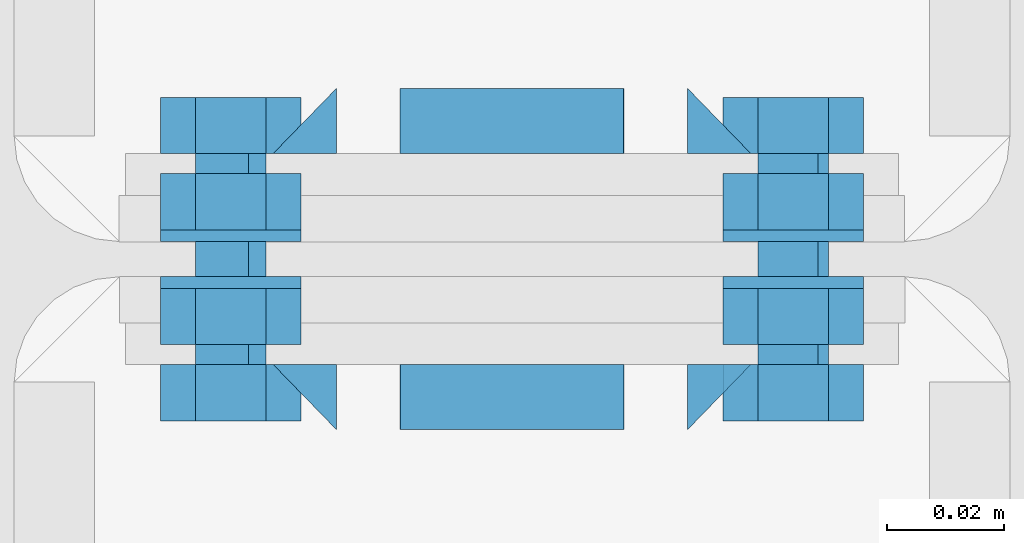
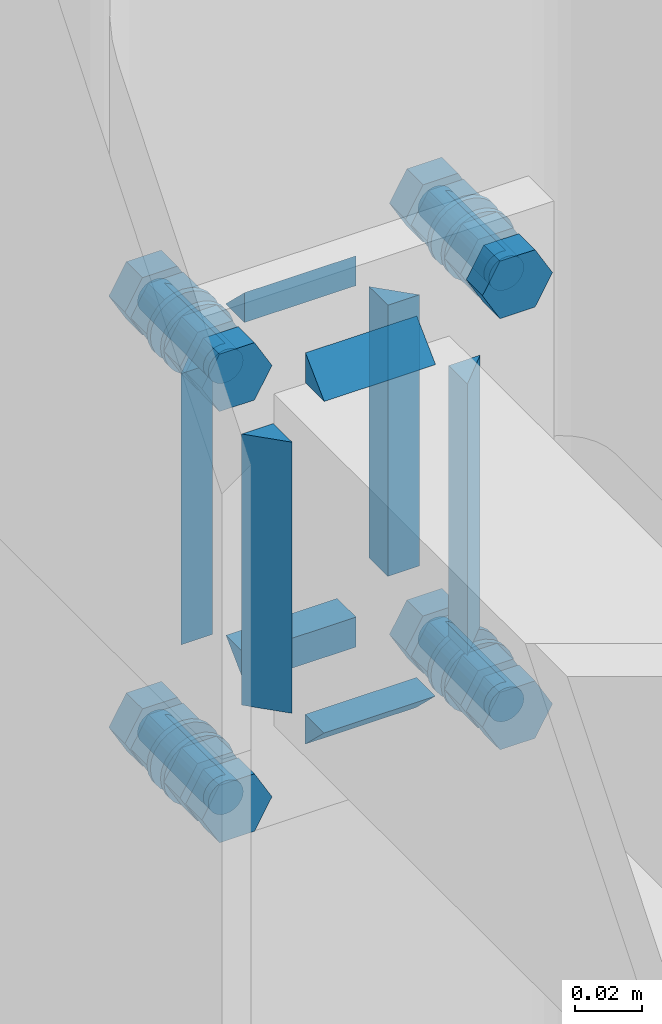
# One storey, part 164 of 251: 32 mechanical fasteners, 14 fasteners.
"""IFC4 building model written with IfcOpenShell, lengths in metres."""

from ifc_helpers import new_model, si_unit, frame, origin_with_axes, place, context, project, spatial, polyline, outline, extrude, type_object, element, save


model = new_model("IFC4")

# Units and contexts
model_context = context("Model", 3, precision=1e-05, world=origin_with_axes())
ifc_project = project(units=[si_unit("LENGTHUNIT", "METRE"), si_unit("AREAUNIT", "SQUARE_METRE"), si_unit("VOLUMEUNIT", "CUBIC_METRE"), si_unit("MASSUNIT", "GRAM", prefix="KILO"), si_unit("TIMEUNIT", "SECOND"), si_unit("PLANEANGLEUNIT", "RADIAN"), si_unit("SOLIDANGLEUNIT", "STERADIAN"), si_unit("THERMODYNAMICTEMPERATUREUNIT", "DEGREE_CELSIUS")], contexts=[model_context])

# Site, building, storey
placement_1 = place(None, origin_with_axes())
site = spatial("IfcSite", under=ifc_project, at=placement_1, Name="Italia", CompositionType="ELEMENT")
building = spatial("IfcBuilding", under=site, at=placement_1, Name="Deposito", CompositionType="ELEMENT")
storey = spatial("IfcBuildingStorey", under=building, at=placement_1, Name="Storey 0", CompositionType="ELEMENT", Elevation=0.0)

# Fasteners
fastener_type_1 = type_object("IfcFastenerType", Name="Collegamenti -001_-002 -002_-001 -002_-003 -003_-002 -003_-004 -004_-003 -004_-008 -008_-004 -009_-010 -010_-009 -010_-011 -011_-010 -011_-012 -012_-011 -012_-016 -016_-012", PredefinedType="WELD")
placement_2 = place(placement_1, origin_with_axes())
fastener_1_placement = place(placement_2, origin_with_axes())
element("IfcFastener", 1, at=fastener_1_placement, inside=storey, type_object=fastener_type_1, Name="Collegamenti -001_-002 -002_-001 -002_-003 -003_-002 -003_-004 -004_-003 -004_-008 -008_-004 -009_-010 -010_-009 -010_-011 -011_-010 -011_-012 -012_-011 -012_-016 -016_-012", context=model_context, shape_type="SweptSolid", body=[
    extrude(outline(polyline([(0.0, 0.0), (-0.0111732, 0.0108376), (0.0, 0.0108376), (0.0, 0.0)])), frame((19.9592, 9.98205, 3.04905), z_axis=(0.0, 0.0, -1.0), x_axis=(0.0, 1.0, 0.0)), (0.0, 0.0, 1.0), 0.0980997),
])
fastener_type_2 = type_object("IfcFastenerType", Name="Collegamenti -001_-002 -002_-001 -002_-003 -003_-002 -003_-004 -004_-003 -004_-008 -008_-004 -009_-010 -010_-009 -010_-011 -011_-010 -011_-012 -012_-011 -012_-016 -016_-012", PredefinedType="WELD")
fastener_2_placement = place(placement_2, origin_with_axes())
element("IfcFastener", 2, at=fastener_2_placement, inside=storey, type_object=fastener_type_2, Name="Collegamenti -001_-002 -002_-001 -002_-003 -003_-002 -003_-004 -004_-003 -004_-008 -008_-004 -009_-010 -010_-009 -010_-011 -011_-010 -011_-012 -012_-011 -012_-016 -016_-012", context=model_context, shape_type="SweptSolid", body=[
    extrude(outline(polyline([(0.0, 0.0), (-0.0111732, 0.0108383), (0.0, 0.0108383), (0.0, 0.0)])), frame((19.9809, 9.98205, 2.92921), z_axis=(1.0, 0.0, 0.0), x_axis=(0.0, 1.0, 0.0)), (0.0, 0.0, 1.0), 0.0381012),
])
fastener_type_3 = type_object("IfcFastenerType", Name="Collegamenti -001_-002 -002_-001 -002_-003 -003_-002 -003_-004 -004_-003 -004_-008 -008_-004 -009_-010 -010_-009 -010_-011 -011_-010 -011_-012 -012_-011 -012_-016 -016_-012", PredefinedType="WELD")
fastener_3_placement = place(placement_2, origin_with_axes())
element("IfcFastener", 3, at=fastener_3_placement, inside=storey, type_object=fastener_type_3, Name="Collegamenti -001_-002 -002_-001 -002_-003 -003_-002 -003_-004 -004_-003 -004_-008 -008_-004 -009_-010 -010_-009 -010_-011 -011_-010 -011_-012 -012_-011 -012_-016 -016_-012", context=model_context, shape_type="SweptSolid", body=[
    extrude(outline(polyline([(0.0, 0.0), (0.0111732, -0.0108383), (0.0, -0.0108383), (0.0, 0.0)])), frame((20.0191, 9.98205, 3.07079), z_axis=(-1.0, 0.0, 0.0), x_axis=(0.0, -1.0, 0.0)), (0.0, 0.0, 1.0), 0.0381012),
])
fastener_type_4 = type_object("IfcFastenerType", Name="Collegamenti -001_-002 -002_-001 -002_-003 -003_-002 -003_-004 -004_-003 -004_-008 -008_-004 -009_-010 -010_-009 -010_-011 -011_-010 -011_-012 -012_-011 -012_-016 -016_-012", PredefinedType="WELD")
fastener_4_placement = place(placement_2, origin_with_axes())
element("IfcFastener", 4, at=fastener_4_placement, inside=storey, type_object=fastener_type_4, Name="Collegamenti -001_-002 -002_-001 -002_-003 -003_-002 -003_-004 -004_-003 -004_-008 -008_-004 -009_-010 -010_-009 -010_-011 -011_-010 -011_-012 -012_-011 -012_-016 -016_-012", context=model_context, shape_type="SweptSolid", body=[
    extrude(outline(polyline([(0.0, 0.0), (-0.0111732, 0.0108376), (0.0, 0.0108376), (0.0, 0.0)])), frame((20.0408, 9.98205, 2.95095), z_axis=(0.0, 0.0, 1.0), x_axis=(0.0, 1.0, 0.0)), (0.0, 0.0, 1.0), 0.0980997),
])
fastener_type_5 = type_object("IfcFastenerType", Name="Collegamenti -001_-002 -002_-001 -002_-003 -003_-002 -003_-004 -004_-003 -004_-008 -008_-004 -009_-010 -010_-009 -010_-011 -011_-010 -011_-012 -012_-011 -012_-016 -016_-012", PredefinedType="WELD")
fastener_5_placement = place(placement_2, origin_with_axes())
element("IfcFastener", 5, at=fastener_5_placement, inside=storey, type_object=fastener_type_5, Name="Collegamenti -001_-002 -002_-001 -002_-003 -003_-002 -003_-004 -004_-003 -004_-008 -008_-004 -009_-010 -010_-009 -010_-011 -011_-010 -011_-012 -012_-011 -012_-016 -016_-012", context=model_context, shape_type="SweptSolid", body=[
    extrude(outline(polyline([(0.0, 0.0), (-0.0111732, 0.0108376), (0.0, 0.0108376), (0.0, 0.0)])), frame((19.9592, 9.98205, 3.04905), z_axis=(0.0, 0.0, -1.0), x_axis=(0.0, 1.0, 0.0)), (0.0, 0.0, 1.0), 0.0980997),
])
fastener_type_6 = type_object("IfcFastenerType", Name="Collegamenti -001_-002 -002_-001 -002_-003 -003_-002 -003_-004 -004_-003 -004_-008 -008_-004 -009_-010 -010_-009 -010_-011 -011_-010 -011_-012 -012_-011 -012_-016 -016_-012", PredefinedType="WELD")
fastener_6_placement = place(placement_2, origin_with_axes())
element("IfcFastener", 6, at=fastener_6_placement, inside=storey, type_object=fastener_type_6, Name="Collegamenti -001_-002 -002_-001 -002_-003 -003_-002 -003_-004 -004_-003 -004_-008 -008_-004 -009_-010 -010_-009 -010_-011 -011_-010 -011_-012 -012_-011 -012_-016 -016_-012", context=model_context, shape_type="SweptSolid", body=[
    extrude(outline(polyline([(0.0, 0.0), (-0.0111732, 0.0108383), (0.0, 0.0108383), (0.0, 0.0)])), frame((19.9809, 9.98205, 2.92921), z_axis=(1.0, 0.0, 0.0), x_axis=(0.0, 1.0, 0.0)), (0.0, 0.0, 1.0), 0.0381012),
])

# Mechanical fasteners
mechanical_fastener_type_1 = type_object("IfcMechanicalFastenerType", Name="Collegamenti -001_-002 -002_-001 -002_-003 -003_-002 -003_-004 -004_-003 -004_-008 -008_-004 -009_-010 -010_-009 -010_-011 -011_-010 -011_-012 -012_-011 -012_-016 -016_-012", PredefinedType="BOLT")
mechanical_fastener_1_placement = place(placement_2, origin_with_axes())
element("IfcMechanicalFastener", 7, at=mechanical_fastener_1_placement, inside=storey, type_object=mechanical_fastener_type_1, Name="Collegamenti -001_-002 -002_-001 -002_-003 -003_-002 -003_-004 -004_-003 -004_-008 -008_-004 -009_-010 -010_-009 -010_-011 -011_-010 -011_-012 -012_-011 -012_-016 -016_-012", NominalDiameter=0.0119992, context=model_context, shape_type="SweptSolid", body=[
    extrude(outline(polyline([(0.0, 0.0), (-0.012001, 0.0), (-0.0179996, 0.0103922), (-0.012001, 0.0207846), (0.0, 0.0207846), (0.00600052, 0.0103922), (0.0, 0.0)])), frame((19.958, 9.982, 2.91161), z_axis=(0.0, -1.0, 0.0), x_axis=(1.0, 0.0, 0.0)), (0.0, 0.0, 1.0), 0.00960064),
])
mechanical_fastener_type_2 = type_object("IfcMechanicalFastenerType", Name="Collegamenti -001_-002 -002_-001 -002_-003 -003_-002 -003_-004 -004_-003 -004_-008 -008_-004 -009_-010 -010_-009 -010_-011 -011_-010 -011_-012 -012_-011 -012_-016 -016_-012", PredefinedType="BOLT")
mechanical_fastener_2_placement = place(placement_2, origin_with_axes())
element("IfcMechanicalFastener", 8, at=mechanical_fastener_2_placement, inside=storey, type_object=mechanical_fastener_type_2, Name="Collegamenti -001_-002 -002_-001 -002_-003 -003_-002 -003_-004 -004_-003 -004_-008 -008_-004 -009_-010 -010_-009 -010_-011 -011_-010 -011_-012 -012_-011 -012_-016 -016_-012", NominalDiameter=0.012, context=model_context, shape_type="SweptSolid", body=[
    extrude(outline(polyline([(0.0, 0.0), (-0.000204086, -0.00155282), (-0.000804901, -0.00300002), (-0.00175858, -0.00424266), (-0.00300026, -0.00519609), (-0.00444794, -0.00579548), (-0.00600052, -0.00600004), (-0.0075531, -0.00579548), (-0.00900078, -0.00519609), (-0.0102425, -0.00424266), (-0.0111961, -0.00300002), (-0.011797, -0.00155282), (-0.012001, 0.0), (-0.011797, 0.00155282), (-0.0111961, 0.00300002), (-0.0102425, 0.00424266), (-0.00900078, 0.00519609), (-0.0075531, 0.00579548), (-0.00600052, 0.00600004), (-0.00444794, 0.00579548), (-0.00300026, 0.00519609), (-0.00175858, 0.00424266), (-0.000804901, 0.00300002), (-0.000204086, 0.00155282), (0.0, 0.0)])), frame((19.958, 10.021, 2.922), z_axis=(0.0, -1.0, 0.0), x_axis=(1.0, 0.0, 0.0)), (0.0, 0.0, 1.0), 0.0389996),
])
mechanical_fastener_type_3 = type_object("IfcMechanicalFastenerType", Name="Collegamenti -001_-002 -002_-001 -002_-003 -003_-002 -003_-004 -004_-003 -004_-008 -008_-004 -009_-010 -010_-009 -010_-011 -011_-010 -011_-012 -012_-011 -012_-016 -016_-012", PredefinedType="BOLT")
mechanical_fastener_3_placement = place(placement_2, origin_with_axes())
element("IfcMechanicalFastener", 9, at=mechanical_fastener_3_placement, inside=storey, type_object=mechanical_fastener_type_3, Name="Collegamenti -001_-002 -002_-001 -002_-003 -003_-002 -003_-004 -004_-003 -004_-008 -008_-004 -009_-010 -010_-009 -010_-011 -011_-010 -011_-012 -012_-011 -012_-016 -016_-012", NominalDiameter=0.0119992, context=model_context, shape_type="SweptSolid", body=[
    extrude(outline(polyline([(0.0, 0.0), (-0.012001, 0.0), (-0.0179996, 0.0103922), (-0.012001, 0.0207846), (0.0, 0.0207846), (0.00600052, 0.0103922), (0.0, 0.0)])), frame((19.958, 10.0146, 2.91161), z_axis=(0.0, -1.0, 0.0), x_axis=(1.0, 0.0, 0.0)), (0.0, 0.0, 1.0), 0.00959969),
])
mechanical_fastener_type_4 = type_object("IfcMechanicalFastenerType", Name="Collegamenti -001_-002 -002_-001 -002_-003 -003_-002 -003_-004 -004_-003 -004_-008 -008_-004 -009_-010 -010_-009 -010_-011 -011_-010 -011_-012 -012_-011 -012_-016 -016_-012", PredefinedType="BOLT")
mechanical_fastener_4_placement = place(placement_2, origin_with_axes())
element("IfcMechanicalFastener", 10, at=mechanical_fastener_4_placement, inside=storey, type_object=mechanical_fastener_type_4, Name="Collegamenti -001_-002 -002_-001 -002_-003 -003_-002 -003_-004 -004_-003 -004_-008 -008_-004 -009_-010 -010_-009 -010_-011 -011_-010 -011_-012 -012_-011 -012_-016 -016_-012", NominalDiameter=0.024, context=model_context, shape_type="SweptSolid", body=[
    extrude(outline(polyline([(0.0, 0.0), (-0.000408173, -0.00310588), (-0.00160599, -0.00600004), (-0.00351334, -0.00848532), (-0.00599861, -0.0103922), (-0.00889397, -0.0115912), (-0.0119991, -0.0120001), (-0.0151043, -0.0115912), (-0.0179996, -0.0103922), (-0.0204849, -0.00848532), (-0.0223923, -0.00600004), (-0.0235901, -0.00310588), (-0.0239983, 0.0), (-0.0235901, 0.00310588), (-0.0223923, 0.00600004), (-0.0204849, 0.00848532), (-0.0179996, 0.0103922), (-0.0151043, 0.0115912), (-0.0119991, 0.0120001), (-0.00889397, 0.0115912), (-0.00599861, 0.0103922), (-0.00351334, 0.00848532), (-0.00160599, 0.00600004), (-0.000408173, 0.00310588), (0.0, 0.0)])), frame((19.964, 10.005, 2.922), z_axis=(0.0, -1.0, 0.0), x_axis=(1.0, 0.0, 0.0)), (0.0, 0.0, 1.0), 0.00199986),
])
mechanical_fastener_type_5 = type_object("IfcMechanicalFastenerType", Name="Collegamenti -001_-002 -002_-001 -002_-003 -003_-002 -003_-004 -004_-003 -004_-008 -008_-004 -009_-010 -010_-009 -010_-011 -011_-010 -011_-012 -012_-011 -012_-016 -016_-012", PredefinedType="BOLT")
mechanical_fastener_5_placement = place(placement_2, origin_with_axes())
element("IfcMechanicalFastener", 11, at=mechanical_fastener_5_placement, inside=storey, type_object=mechanical_fastener_type_5, Name="Collegamenti -001_-002 -002_-001 -002_-003 -003_-002 -003_-004 -004_-003 -004_-008 -008_-004 -009_-010 -010_-009 -010_-011 -011_-010 -011_-012 -012_-011 -012_-016 -016_-012", NominalDiameter=0.0119992, context=model_context, shape_type="SweptSolid", body=[
    extrude(outline(polyline([(0.0, 0.0), (-0.012001, 0.0), (-0.0180016, 0.0103922), (-0.012001, 0.0207846), (0.0, 0.0207846), (0.00599861, 0.0103922), (0.0, 0.0)])), frame((20.054, 9.982, 2.91161), z_axis=(0.0, -1.0, 0.0), x_axis=(1.0, 0.0, 0.0)), (0.0, 0.0, 1.0), 0.00960064),
])
mechanical_fastener_type_6 = type_object("IfcMechanicalFastenerType", Name="Collegamenti -001_-002 -002_-001 -002_-003 -003_-002 -003_-004 -004_-003 -004_-008 -008_-004 -009_-010 -010_-009 -010_-011 -011_-010 -011_-012 -012_-011 -012_-016 -016_-012", PredefinedType="BOLT")
mechanical_fastener_6_placement = place(placement_2, origin_with_axes())
element("IfcMechanicalFastener", 12, at=mechanical_fastener_6_placement, inside=storey, type_object=mechanical_fastener_type_6, Name="Collegamenti -001_-002 -002_-001 -002_-003 -003_-002 -003_-004 -004_-003 -004_-008 -008_-004 -009_-010 -010_-009 -010_-011 -011_-010 -011_-012 -012_-011 -012_-016 -016_-012", NominalDiameter=0.012, context=model_context, shape_type="SweptSolid", body=[
    extrude(outline(polyline([(0.0, 0.0), (-0.000204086, -0.00155282), (-0.000804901, -0.00300002), (-0.00175858, -0.00424266), (-0.00300026, -0.00519609), (-0.00444794, -0.00579548), (-0.00600052, -0.00600004), (-0.0075531, -0.00579548), (-0.00900078, -0.00519609), (-0.0102425, -0.00424266), (-0.0111961, -0.00300002), (-0.011797, -0.00155282), (-0.012001, 0.0), (-0.011797, 0.00155282), (-0.0111961, 0.00300002), (-0.0102425, 0.00424266), (-0.00900078, 0.00519609), (-0.0075531, 0.00579548), (-0.00600052, 0.00600004), (-0.00444794, 0.00579548), (-0.00300026, 0.00519609), (-0.00175858, 0.00424266), (-0.000804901, 0.00300002), (-0.000204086, 0.00155282), (0.0, 0.0)])), frame((20.054, 10.021, 2.922), z_axis=(0.0, -1.0, 0.0), x_axis=(1.0, 0.0, 0.0)), (0.0, 0.0, 1.0), 0.0389996),
])
mechanical_fastener_type_7 = type_object("IfcMechanicalFastenerType", Name="Collegamenti -001_-002 -002_-001 -002_-003 -003_-002 -003_-004 -004_-003 -004_-008 -008_-004 -009_-010 -010_-009 -010_-011 -011_-010 -011_-012 -012_-011 -012_-016 -016_-012", PredefinedType="BOLT")
mechanical_fastener_7_placement = place(placement_2, origin_with_axes())
element("IfcMechanicalFastener", 13, at=mechanical_fastener_7_placement, inside=storey, type_object=mechanical_fastener_type_7, Name="Collegamenti -001_-002 -002_-001 -002_-003 -003_-002 -003_-004 -004_-003 -004_-008 -008_-004 -009_-010 -010_-009 -010_-011 -011_-010 -011_-012 -012_-011 -012_-016 -016_-012", NominalDiameter=0.0119992, context=model_context, shape_type="SweptSolid", body=[
    extrude(outline(polyline([(0.0, 0.0), (-0.012001, 0.0), (-0.0180016, 0.0103922), (-0.012001, 0.0207846), (0.0, 0.0207846), (0.00599861, 0.0103922), (0.0, 0.0)])), frame((20.054, 10.0146, 2.91161), z_axis=(0.0, -1.0, 0.0), x_axis=(1.0, 0.0, 0.0)), (0.0, 0.0, 1.0), 0.00959969),
])
mechanical_fastener_type_8 = type_object("IfcMechanicalFastenerType", Name="Collegamenti -001_-002 -002_-001 -002_-003 -003_-002 -003_-004 -004_-003 -004_-008 -008_-004 -009_-010 -010_-009 -010_-011 -011_-010 -011_-012 -012_-011 -012_-016 -016_-012", PredefinedType="BOLT")
mechanical_fastener_8_placement = place(placement_2, origin_with_axes())
element("IfcMechanicalFastener", 14, at=mechanical_fastener_8_placement, inside=storey, type_object=mechanical_fastener_type_8, Name="Collegamenti -001_-002 -002_-001 -002_-003 -003_-002 -003_-004 -004_-003 -004_-008 -008_-004 -009_-010 -010_-009 -010_-011 -011_-010 -011_-012 -012_-011 -012_-016 -016_-012", NominalDiameter=0.024, context=model_context, shape_type="SweptSolid", body=[
    extrude(outline(polyline([(0.0, 0.0), (-0.000408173, -0.00310588), (-0.00160599, -0.00600004), (-0.00351334, -0.00848532), (-0.00599861, -0.0103922), (-0.00889397, -0.0115912), (-0.0119991, -0.0120001), (-0.0151043, -0.0115912), (-0.0179996, -0.0103922), (-0.0204849, -0.00848532), (-0.0223923, -0.00600004), (-0.0235901, -0.00310588), (-0.0239983, 0.0), (-0.0235901, 0.00310588), (-0.0223923, 0.00600004), (-0.0204849, 0.00848532), (-0.0179996, 0.0103922), (-0.0151043, 0.0115912), (-0.0119991, 0.0120001), (-0.00889397, 0.0115912), (-0.00599861, 0.0103922), (-0.00351334, 0.00848532), (-0.00160599, 0.00600004), (-0.000408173, 0.00310588), (0.0, 0.0)])), frame((20.06, 10.005, 2.922), z_axis=(0.0, -1.0, 0.0), x_axis=(1.0, 0.0, 0.0)), (0.0, 0.0, 1.0), 0.00199986),
])
mechanical_fastener_type_9 = type_object("IfcMechanicalFastenerType", Name="Collegamenti -001_-002 -002_-001 -002_-003 -003_-002 -003_-004 -004_-003 -004_-008 -008_-004 -009_-010 -010_-009 -010_-011 -011_-010 -011_-012 -012_-011 -012_-016 -016_-012", PredefinedType="BOLT")
mechanical_fastener_9_placement = place(placement_2, origin_with_axes())
element("IfcMechanicalFastener", 15, at=mechanical_fastener_9_placement, inside=storey, type_object=mechanical_fastener_type_9, Name="Collegamenti -001_-002 -002_-001 -002_-003 -003_-002 -003_-004 -004_-003 -004_-008 -008_-004 -009_-010 -010_-009 -010_-011 -011_-010 -011_-012 -012_-011 -012_-016 -016_-012", NominalDiameter=0.0119992, context=model_context, shape_type="SweptSolid", body=[
    extrude(outline(polyline([(0.0, 0.0), (-0.012001, 0.0), (-0.0179996, 0.0103924), (-0.012001, 0.0207846), (0.0, 0.0207846), (0.00600052, 0.0103924), (0.0, 0.0)])), frame((19.958, 9.982, 3.06761), z_axis=(0.0, -1.0, 0.0), x_axis=(1.0, 0.0, 0.0)), (0.0, 0.0, 1.0), 0.00960064),
])
mechanical_fastener_type_10 = type_object("IfcMechanicalFastenerType", Name="Collegamenti -001_-002 -002_-001 -002_-003 -003_-002 -003_-004 -004_-003 -004_-008 -008_-004 -009_-010 -010_-009 -010_-011 -011_-010 -011_-012 -012_-011 -012_-016 -016_-012", PredefinedType="BOLT")
mechanical_fastener_10_placement = place(placement_2, origin_with_axes())
element("IfcMechanicalFastener", 16, at=mechanical_fastener_10_placement, inside=storey, type_object=mechanical_fastener_type_10, Name="Collegamenti -001_-002 -002_-001 -002_-003 -003_-002 -003_-004 -004_-003 -004_-008 -008_-004 -009_-010 -010_-009 -010_-011 -011_-010 -011_-012 -012_-011 -012_-016 -016_-012", NominalDiameter=0.012, context=model_context, shape_type="SweptSolid", body=[
    extrude(outline(polyline([(0.0, 0.0), (-0.000204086, -0.00155282), (-0.000804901, -0.00300002), (-0.00175858, -0.00424266), (-0.00300026, -0.00519609), (-0.00444794, -0.00579548), (-0.00600052, -0.00600004), (-0.0075531, -0.00579548), (-0.00900078, -0.00519609), (-0.0102425, -0.00424266), (-0.0111961, -0.00300002), (-0.011797, -0.00155282), (-0.012001, 0.0), (-0.011797, 0.00155282), (-0.0111961, 0.00300002), (-0.0102425, 0.00424266), (-0.00900078, 0.00519609), (-0.0075531, 0.00579548), (-0.00600052, 0.00600004), (-0.00444794, 0.00579548), (-0.00300026, 0.00519609), (-0.00175858, 0.00424266), (-0.000804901, 0.00300002), (-0.000204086, 0.00155282), (0.0, 0.0)])), frame((19.958, 10.021, 3.078), z_axis=(0.0, -1.0, 0.0), x_axis=(1.0, 0.0, 0.0)), (0.0, 0.0, 1.0), 0.0389996),
])
mechanical_fastener_type_11 = type_object("IfcMechanicalFastenerType", Name="Collegamenti -001_-002 -002_-001 -002_-003 -003_-002 -003_-004 -004_-003 -004_-008 -008_-004 -009_-010 -010_-009 -010_-011 -011_-010 -011_-012 -012_-011 -012_-016 -016_-012", PredefinedType="BOLT")
mechanical_fastener_11_placement = place(placement_2, origin_with_axes())
element("IfcMechanicalFastener", 17, at=mechanical_fastener_11_placement, inside=storey, type_object=mechanical_fastener_type_11, Name="Collegamenti -001_-002 -002_-001 -002_-003 -003_-002 -003_-004 -004_-003 -004_-008 -008_-004 -009_-010 -010_-009 -010_-011 -011_-010 -011_-012 -012_-011 -012_-016 -016_-012", NominalDiameter=0.0119992, context=model_context, shape_type="SweptSolid", body=[
    extrude(outline(polyline([(0.0, 0.0), (-0.012001, 0.0), (-0.0179996, 0.0103924), (-0.012001, 0.0207846), (0.0, 0.0207846), (0.00600052, 0.0103924), (0.0, 0.0)])), frame((19.958, 10.0146, 3.06761), z_axis=(0.0, -1.0, 0.0), x_axis=(1.0, 0.0, 0.0)), (0.0, 0.0, 1.0), 0.00959969),
])
mechanical_fastener_type_12 = type_object("IfcMechanicalFastenerType", Name="Collegamenti -001_-002 -002_-001 -002_-003 -003_-002 -003_-004 -004_-003 -004_-008 -008_-004 -009_-010 -010_-009 -010_-011 -011_-010 -011_-012 -012_-011 -012_-016 -016_-012", PredefinedType="BOLT")
mechanical_fastener_12_placement = place(placement_2, origin_with_axes())
element("IfcMechanicalFastener", 18, at=mechanical_fastener_12_placement, inside=storey, type_object=mechanical_fastener_type_12, Name="Collegamenti -001_-002 -002_-001 -002_-003 -003_-002 -003_-004 -004_-003 -004_-008 -008_-004 -009_-010 -010_-009 -010_-011 -011_-010 -011_-012 -012_-011 -012_-016 -016_-012", NominalDiameter=0.024, context=model_context, shape_type="SweptSolid", body=[
    extrude(outline(polyline([(0.0, 0.0), (-0.000408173, -0.00310588), (-0.00160599, -0.00600004), (-0.00351334, -0.00848532), (-0.00599861, -0.0103922), (-0.00889397, -0.0115912), (-0.0119991, -0.0120001), (-0.0151043, -0.0115912), (-0.0179996, -0.0103922), (-0.0204849, -0.00848532), (-0.0223923, -0.00600004), (-0.0235901, -0.00310588), (-0.0239983, 0.0), (-0.0235901, 0.00310588), (-0.0223923, 0.00600004), (-0.0204849, 0.00848532), (-0.0179996, 0.0103922), (-0.0151043, 0.0115912), (-0.0119991, 0.0120001), (-0.00889397, 0.0115912), (-0.00599861, 0.0103922), (-0.00351334, 0.00848532), (-0.00160599, 0.00600004), (-0.000408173, 0.00310588), (0.0, 0.0)])), frame((19.964, 10.005, 3.078), z_axis=(0.0, -1.0, 0.0), x_axis=(1.0, 0.0, 0.0)), (0.0, 0.0, 1.0), 0.00199986),
])
mechanical_fastener_type_13 = type_object("IfcMechanicalFastenerType", Name="Collegamenti -001_-002 -002_-001 -002_-003 -003_-002 -003_-004 -004_-003 -004_-008 -008_-004 -009_-010 -010_-009 -010_-011 -011_-010 -011_-012 -012_-011 -012_-016 -016_-012", PredefinedType="BOLT")
mechanical_fastener_13_placement = place(placement_2, origin_with_axes())
element("IfcMechanicalFastener", 19, at=mechanical_fastener_13_placement, inside=storey, type_object=mechanical_fastener_type_13, Name="Collegamenti -001_-002 -002_-001 -002_-003 -003_-002 -003_-004 -004_-003 -004_-008 -008_-004 -009_-010 -010_-009 -010_-011 -011_-010 -011_-012 -012_-011 -012_-016 -016_-012", NominalDiameter=0.0119992, context=model_context, shape_type="SweptSolid", body=[
    extrude(outline(polyline([(0.0, 0.0), (-0.012001, 0.0), (-0.0180016, 0.0103924), (-0.012001, 0.0207846), (0.0, 0.0207846), (0.00599861, 0.0103924), (0.0, 0.0)])), frame((20.054, 9.982, 3.06761), z_axis=(0.0, -1.0, 0.0), x_axis=(1.0, 0.0, 0.0)), (0.0, 0.0, 1.0), 0.00960064),
])
mechanical_fastener_type_14 = type_object("IfcMechanicalFastenerType", Name="Collegamenti -001_-002 -002_-001 -002_-003 -003_-002 -003_-004 -004_-003 -004_-008 -008_-004 -009_-010 -010_-009 -010_-011 -011_-010 -011_-012 -012_-011 -012_-016 -016_-012", PredefinedType="BOLT")
mechanical_fastener_14_placement = place(placement_2, origin_with_axes())
element("IfcMechanicalFastener", 20, at=mechanical_fastener_14_placement, inside=storey, type_object=mechanical_fastener_type_14, Name="Collegamenti -001_-002 -002_-001 -002_-003 -003_-002 -003_-004 -004_-003 -004_-008 -008_-004 -009_-010 -010_-009 -010_-011 -011_-010 -011_-012 -012_-011 -012_-016 -016_-012", NominalDiameter=0.012, context=model_context, shape_type="SweptSolid", body=[
    extrude(outline(polyline([(0.0, 0.0), (-0.000204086, -0.00155282), (-0.000804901, -0.00300002), (-0.00175858, -0.00424266), (-0.00300026, -0.00519609), (-0.00444794, -0.00579548), (-0.00600052, -0.00600004), (-0.0075531, -0.00579548), (-0.00900078, -0.00519609), (-0.0102425, -0.00424266), (-0.0111961, -0.00300002), (-0.011797, -0.00155282), (-0.012001, 0.0), (-0.011797, 0.00155282), (-0.0111961, 0.00300002), (-0.0102425, 0.00424266), (-0.00900078, 0.00519609), (-0.0075531, 0.00579548), (-0.00600052, 0.00600004), (-0.00444794, 0.00579548), (-0.00300026, 0.00519609), (-0.00175858, 0.00424266), (-0.000804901, 0.00300002), (-0.000204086, 0.00155282), (0.0, 0.0)])), frame((20.054, 10.021, 3.078), z_axis=(0.0, -1.0, 0.0), x_axis=(1.0, 0.0, 0.0)), (0.0, 0.0, 1.0), 0.0389996),
])
mechanical_fastener_type_15 = type_object("IfcMechanicalFastenerType", Name="Collegamenti -001_-002 -002_-001 -002_-003 -003_-002 -003_-004 -004_-003 -004_-008 -008_-004 -009_-010 -010_-009 -010_-011 -011_-010 -011_-012 -012_-011 -012_-016 -016_-012", PredefinedType="BOLT")
mechanical_fastener_15_placement = place(placement_2, origin_with_axes())
element("IfcMechanicalFastener", 21, at=mechanical_fastener_15_placement, inside=storey, type_object=mechanical_fastener_type_15, Name="Collegamenti -001_-002 -002_-001 -002_-003 -003_-002 -003_-004 -004_-003 -004_-008 -008_-004 -009_-010 -010_-009 -010_-011 -011_-010 -011_-012 -012_-011 -012_-016 -016_-012", NominalDiameter=0.0119992, context=model_context, shape_type="SweptSolid", body=[
    extrude(outline(polyline([(0.0, 0.0), (-0.012001, 0.0), (-0.0180016, 0.0103924), (-0.012001, 0.0207846), (0.0, 0.0207846), (0.00599861, 0.0103924), (0.0, 0.0)])), frame((20.054, 10.0146, 3.06761), z_axis=(0.0, -1.0, 0.0), x_axis=(1.0, 0.0, 0.0)), (0.0, 0.0, 1.0), 0.00959969),
])
mechanical_fastener_type_16 = type_object("IfcMechanicalFastenerType", Name="Collegamenti -001_-002 -002_-001 -002_-003 -003_-002 -003_-004 -004_-003 -004_-008 -008_-004 -009_-010 -010_-009 -010_-011 -011_-010 -011_-012 -012_-011 -012_-016 -016_-012", PredefinedType="BOLT")
mechanical_fastener_16_placement = place(placement_2, origin_with_axes())
element("IfcMechanicalFastener", 22, at=mechanical_fastener_16_placement, inside=storey, type_object=mechanical_fastener_type_16, Name="Collegamenti -001_-002 -002_-001 -002_-003 -003_-002 -003_-004 -004_-003 -004_-008 -008_-004 -009_-010 -010_-009 -010_-011 -011_-010 -011_-012 -012_-011 -012_-016 -016_-012", NominalDiameter=0.024, context=model_context, shape_type="SweptSolid", body=[
    extrude(outline(polyline([(0.0, 0.0), (-0.000408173, -0.00310588), (-0.00160599, -0.00600004), (-0.00351334, -0.00848532), (-0.00599861, -0.0103922), (-0.00889397, -0.0115912), (-0.0119991, -0.0120001), (-0.0151043, -0.0115912), (-0.0179996, -0.0103922), (-0.0204849, -0.00848532), (-0.0223923, -0.00600004), (-0.0235901, -0.00310588), (-0.0239983, 0.0), (-0.0235901, 0.00310588), (-0.0223923, 0.00600004), (-0.0204849, 0.00848532), (-0.0179996, 0.0103922), (-0.0151043, 0.0115912), (-0.0119991, 0.0120001), (-0.00889397, 0.0115912), (-0.00599861, 0.0103922), (-0.00351334, 0.00848532), (-0.00160599, 0.00600004), (-0.000408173, 0.00310588), (0.0, 0.0)])), frame((20.06, 10.005, 3.078), z_axis=(0.0, -1.0, 0.0), x_axis=(1.0, 0.0, 0.0)), (0.0, 0.0, 1.0), 0.00199986),
])

# Fasteners
fastener_type_7 = type_object("IfcFastenerType", Name="Collegamenti -001_-002 -002_-001 -002_-003 -003_-002 -003_-004 -004_-003 -004_-008 -008_-004 -009_-010 -010_-009 -010_-011 -011_-010 -011_-012 -012_-011 -012_-016 -016_-012", PredefinedType="WELD")
fastener_7_placement = place(placement_2, origin_with_axes())
element("IfcFastener", 23, at=fastener_7_placement, inside=storey, type_object=fastener_type_7, Name="Collegamenti -001_-002 -002_-001 -002_-003 -003_-002 -003_-004 -004_-003 -004_-008 -008_-004 -009_-010 -010_-009 -010_-011 -011_-010 -011_-012 -012_-011 -012_-016 -016_-012", context=model_context, shape_type="SweptSolid", body=[
    extrude(outline(polyline([(0.0, 0.0), (0.0111732, -0.0108383), (0.0, -0.0108383), (0.0, 0.0)])), frame((19.9809, 10.018, 3.07079), z_axis=(1.0, 0.0, 0.0), x_axis=(0.0, 1.0, 0.0)), (0.0, 0.0, 1.0), 0.0381012),
])
fastener_type_8 = type_object("IfcFastenerType", Name="Collegamenti -001_-002 -002_-001 -002_-003 -003_-002 -003_-004 -004_-003 -004_-008 -008_-004 -009_-010 -010_-009 -010_-011 -011_-010 -011_-012 -012_-011 -012_-016 -016_-012", PredefinedType="WELD")
fastener_8_placement = place(placement_2, origin_with_axes())
element("IfcFastener", 24, at=fastener_8_placement, inside=storey, type_object=fastener_type_8, Name="Collegamenti -001_-002 -002_-001 -002_-003 -003_-002 -003_-004 -004_-003 -004_-008 -008_-004 -009_-010 -010_-009 -010_-011 -011_-010 -011_-012 -012_-011 -012_-016 -016_-012", context=model_context, shape_type="SweptSolid", body=[
    extrude(outline(polyline([(0.0, 0.0), (0.0111732, -0.0108376), (0.0, -0.0108376), (0.0, 0.0)])), frame((19.9592, 10.018, 2.95095), z_axis=(0.0, 0.0, 1.0), x_axis=(0.0, 1.0, 0.0)), (0.0, 0.0, 1.0), 0.0980997),
])
fastener_type_9 = type_object("IfcFastenerType", Name="Collegamenti -001_-002 -002_-001 -002_-003 -003_-002 -003_-004 -004_-003 -004_-008 -008_-004 -009_-010 -010_-009 -010_-011 -011_-010 -011_-012 -012_-011 -012_-016 -016_-012", PredefinedType="WELD")
fastener_9_placement = place(placement_2, origin_with_axes())
element("IfcFastener", 25, at=fastener_9_placement, inside=storey, type_object=fastener_type_9, Name="Collegamenti -001_-002 -002_-001 -002_-003 -003_-002 -003_-004 -004_-003 -004_-008 -008_-004 -009_-010 -010_-009 -010_-011 -011_-010 -011_-012 -012_-011 -012_-016 -016_-012", context=model_context, shape_type="SweptSolid", body=[
    extrude(outline(polyline([(0.0, 0.0), (0.0111732, -0.0108376), (0.0, -0.0108376), (0.0, 0.0)])), frame((20.0408, 10.018, 3.04905), z_axis=(0.0, 0.0, -1.0), x_axis=(0.0, 1.0, 0.0)), (0.0, 0.0, 1.0), 0.0980997),
])
fastener_type_10 = type_object("IfcFastenerType", Name="Collegamenti -001_-002 -002_-001 -002_-003 -003_-002 -003_-004 -004_-003 -004_-008 -008_-004 -009_-010 -010_-009 -010_-011 -011_-010 -011_-012 -012_-011 -012_-016 -016_-012", PredefinedType="WELD")
fastener_10_placement = place(placement_2, origin_with_axes())
element("IfcFastener", 26, at=fastener_10_placement, inside=storey, type_object=fastener_type_10, Name="Collegamenti -001_-002 -002_-001 -002_-003 -003_-002 -003_-004 -004_-003 -004_-008 -008_-004 -009_-010 -010_-009 -010_-011 -011_-010 -011_-012 -012_-011 -012_-016 -016_-012", context=model_context, shape_type="SweptSolid", body=[
    extrude(outline(polyline([(0.0, 0.0), (-0.0111732, 0.0108383), (0.0, 0.0108383), (0.0, 0.0)])), frame((20.0191, 10.018, 2.92921), z_axis=(-1.0, 0.0, 0.0), x_axis=(0.0, -1.0, 0.0)), (0.0, 0.0, 1.0), 0.0381012),
])
fastener_type_11 = type_object("IfcFastenerType", Name="Collegamenti -001_-002 -002_-001 -002_-003 -003_-002 -003_-004 -004_-003 -004_-008 -008_-004 -009_-010 -010_-009 -010_-011 -011_-010 -011_-012 -012_-011 -012_-016 -016_-012", PredefinedType="WELD")
fastener_11_placement = place(placement_2, origin_with_axes())
element("IfcFastener", 27, at=fastener_11_placement, inside=storey, type_object=fastener_type_11, Name="Collegamenti -001_-002 -002_-001 -002_-003 -003_-002 -003_-004 -004_-003 -004_-008 -008_-004 -009_-010 -010_-009 -010_-011 -011_-010 -011_-012 -012_-011 -012_-016 -016_-012", context=model_context, shape_type="SweptSolid", body=[
    extrude(outline(polyline([(0.0, 0.0), (0.0111732, -0.0108383), (0.0, -0.0108383), (0.0, 0.0)])), frame((19.9809, 10.018, 3.07079), z_axis=(1.0, 0.0, 0.0), x_axis=(0.0, 1.0, 0.0)), (0.0, 0.0, 1.0), 0.0381012),
])
fastener_type_12 = type_object("IfcFastenerType", Name="Collegamenti -001_-002 -002_-001 -002_-003 -003_-002 -003_-004 -004_-003 -004_-008 -008_-004 -009_-010 -010_-009 -010_-011 -011_-010 -011_-012 -012_-011 -012_-016 -016_-012", PredefinedType="WELD")
fastener_12_placement = place(placement_2, origin_with_axes())
element("IfcFastener", 28, at=fastener_12_placement, inside=storey, type_object=fastener_type_12, Name="Collegamenti -001_-002 -002_-001 -002_-003 -003_-002 -003_-004 -004_-003 -004_-008 -008_-004 -009_-010 -010_-009 -010_-011 -011_-010 -011_-012 -012_-011 -012_-016 -016_-012", context=model_context, shape_type="SweptSolid", body=[
    extrude(outline(polyline([(0.0, 0.0), (0.0111732, -0.0108376), (0.0, -0.0108376), (0.0, 0.0)])), frame((19.9592, 10.018, 2.95095), z_axis=(0.0, 0.0, 1.0), x_axis=(0.0, 1.0, 0.0)), (0.0, 0.0, 1.0), 0.0980997),
])
fastener_type_13 = type_object("IfcFastenerType", Name="Collegamenti -001_-002 -002_-001 -002_-003 -003_-002 -003_-004 -004_-003 -004_-008 -008_-004 -009_-010 -010_-009 -010_-011 -011_-010 -011_-012 -012_-011 -012_-016 -016_-012", PredefinedType="WELD")
fastener_13_placement = place(placement_2, origin_with_axes())
element("IfcFastener", 29, at=fastener_13_placement, inside=storey, type_object=fastener_type_13, Name="Collegamenti -001_-002 -002_-001 -002_-003 -003_-002 -003_-004 -004_-003 -004_-008 -008_-004 -009_-010 -010_-009 -010_-011 -011_-010 -011_-012 -012_-011 -012_-016 -016_-012", context=model_context, shape_type="SweptSolid", body=[
    extrude(outline(polyline([(0.0, 0.0), (0.0111732, -0.0108376), (0.0, -0.0108376), (0.0, 0.0)])), frame((20.0408, 10.018, 3.04905), z_axis=(0.0, 0.0, -1.0), x_axis=(0.0, 1.0, 0.0)), (0.0, 0.0, 1.0), 0.0980997),
])
fastener_type_14 = type_object("IfcFastenerType", Name="Collegamenti -001_-002 -002_-001 -002_-003 -003_-002 -003_-004 -004_-003 -004_-008 -008_-004 -009_-010 -010_-009 -010_-011 -011_-010 -011_-012 -012_-011 -012_-016 -016_-012", PredefinedType="WELD")
fastener_14_placement = place(placement_2, origin_with_axes())
element("IfcFastener", 30, at=fastener_14_placement, inside=storey, type_object=fastener_type_14, Name="Collegamenti -001_-002 -002_-001 -002_-003 -003_-002 -003_-004 -004_-003 -004_-008 -008_-004 -009_-010 -010_-009 -010_-011 -011_-010 -011_-012 -012_-011 -012_-016 -016_-012", context=model_context, shape_type="SweptSolid", body=[
    extrude(outline(polyline([(0.0, 0.0), (-0.0111732, 0.0108383), (0.0, 0.0108383), (0.0, 0.0)])), frame((20.0191, 10.018, 2.92921), z_axis=(-1.0, 0.0, 0.0), x_axis=(0.0, -1.0, 0.0)), (0.0, 0.0, 1.0), 0.0381012),
])

# Mechanical fasteners
mechanical_fastener_type_17 = type_object("IfcMechanicalFastenerType", Name="Collegamenti -001_-002 -002_-001 -002_-003 -003_-002 -003_-004 -004_-003 -004_-008 -008_-004 -009_-010 -010_-009 -010_-011 -011_-010 -011_-012 -012_-011 -012_-016 -016_-012", PredefinedType="BOLT")
mechanical_fastener_17_placement = place(placement_2, origin_with_axes())
element("IfcMechanicalFastener", 31, at=mechanical_fastener_17_placement, inside=storey, type_object=mechanical_fastener_type_17, Name="Collegamenti -001_-002 -002_-001 -002_-003 -003_-002 -003_-004 -004_-003 -004_-008 -008_-004 -009_-010 -010_-009 -010_-011 -011_-010 -011_-012 -012_-011 -012_-016 -016_-012", NominalDiameter=0.0119992, context=model_context, shape_type="SweptSolid", body=[
    extrude(outline(polyline([(0.0, 0.0), (-0.012001, 0.0), (-0.0179996, 0.0103922), (-0.012001, 0.0207846), (0.0, 0.0207846), (0.00600052, 0.0103922), (0.0, 0.0)])), frame((20.042, 10.018, 2.91161), z_axis=(0.0, 1.0, 0.0), x_axis=(-1.0, 0.0, 0.0)), (0.0, 0.0, 1.0), 0.00960064),
])
mechanical_fastener_type_18 = type_object("IfcMechanicalFastenerType", Name="Collegamenti -001_-002 -002_-001 -002_-003 -003_-002 -003_-004 -004_-003 -004_-008 -008_-004 -009_-010 -010_-009 -010_-011 -011_-010 -011_-012 -012_-011 -012_-016 -016_-012", PredefinedType="BOLT")
mechanical_fastener_18_placement = place(placement_2, origin_with_axes())
element("IfcMechanicalFastener", 32, at=mechanical_fastener_18_placement, inside=storey, type_object=mechanical_fastener_type_18, Name="Collegamenti -001_-002 -002_-001 -002_-003 -003_-002 -003_-004 -004_-003 -004_-008 -008_-004 -009_-010 -010_-009 -010_-011 -011_-010 -011_-012 -012_-011 -012_-016 -016_-012", NominalDiameter=0.012, context=model_context, shape_type="SweptSolid", body=[
    extrude(outline(polyline([(0.0, 0.0), (-0.000204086, -0.00155282), (-0.000804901, -0.00300002), (-0.00175858, -0.00424266), (-0.00300026, -0.00519609), (-0.00444794, -0.00579548), (-0.00600052, -0.00600004), (-0.0075531, -0.00579548), (-0.00900078, -0.00519609), (-0.0102425, -0.00424266), (-0.0111961, -0.00300002), (-0.011797, -0.00155282), (-0.012001, 0.0), (-0.011797, 0.00155282), (-0.0111961, 0.00300002), (-0.0102425, 0.00424266), (-0.00900078, 0.00519609), (-0.0075531, 0.00579548), (-0.00600052, 0.00600004), (-0.00444794, 0.00579548), (-0.00300026, 0.00519609), (-0.00175858, 0.00424266), (-0.000804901, 0.00300002), (-0.000204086, 0.00155282), (0.0, 0.0)])), frame((20.042, 9.979, 2.922), z_axis=(0.0, 1.0, 0.0), x_axis=(-1.0, 0.0, 0.0)), (0.0, 0.0, 1.0), 0.0389996),
])
mechanical_fastener_type_19 = type_object("IfcMechanicalFastenerType", Name="Collegamenti -001_-002 -002_-001 -002_-003 -003_-002 -003_-004 -004_-003 -004_-008 -008_-004 -009_-010 -010_-009 -010_-011 -011_-010 -011_-012 -012_-011 -012_-016 -016_-012", PredefinedType="BOLT")
mechanical_fastener_19_placement = place(placement_2, origin_with_axes())
element("IfcMechanicalFastener", 33, at=mechanical_fastener_19_placement, inside=storey, type_object=mechanical_fastener_type_19, Name="Collegamenti -001_-002 -002_-001 -002_-003 -003_-002 -003_-004 -004_-003 -004_-008 -008_-004 -009_-010 -010_-009 -010_-011 -011_-010 -011_-012 -012_-011 -012_-016 -016_-012", NominalDiameter=0.0119992, context=model_context, shape_type="SweptSolid", body=[
    extrude(outline(polyline([(0.0, 0.0), (-0.012001, 0.0), (-0.0179996, 0.0103922), (-0.012001, 0.0207846), (0.0, 0.0207846), (0.00600052, 0.0103922), (0.0, 0.0)])), frame((20.042, 9.9854, 2.91161), z_axis=(0.0, 1.0, 0.0), x_axis=(-1.0, 0.0, 0.0)), (0.0, 0.0, 1.0), 0.00959969),
])
mechanical_fastener_type_20 = type_object("IfcMechanicalFastenerType", Name="Collegamenti -001_-002 -002_-001 -002_-003 -003_-002 -003_-004 -004_-003 -004_-008 -008_-004 -009_-010 -010_-009 -010_-011 -011_-010 -011_-012 -012_-011 -012_-016 -016_-012", PredefinedType="BOLT")
mechanical_fastener_20_placement = place(placement_2, origin_with_axes())
element("IfcMechanicalFastener", 34, at=mechanical_fastener_20_placement, inside=storey, type_object=mechanical_fastener_type_20, Name="Collegamenti -001_-002 -002_-001 -002_-003 -003_-002 -003_-004 -004_-003 -004_-008 -008_-004 -009_-010 -010_-009 -010_-011 -011_-010 -011_-012 -012_-011 -012_-016 -016_-012", NominalDiameter=0.024, context=model_context, shape_type="SweptSolid", body=[
    extrude(outline(polyline([(0.0, 0.0), (-0.000408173, -0.00310588), (-0.00160599, -0.00600004), (-0.00351334, -0.00848532), (-0.00599861, -0.0103922), (-0.00889397, -0.0115912), (-0.0119991, -0.0120001), (-0.0151043, -0.0115912), (-0.0179996, -0.0103922), (-0.0204849, -0.00848532), (-0.0223923, -0.00600004), (-0.0235901, -0.00310588), (-0.0239983, 0.0), (-0.0235901, 0.00310588), (-0.0223923, 0.00600004), (-0.0204849, 0.00848532), (-0.0179996, 0.0103922), (-0.0151043, 0.0115912), (-0.0119991, 0.0120001), (-0.00889397, 0.0115912), (-0.00599861, 0.0103922), (-0.00351334, 0.00848532), (-0.00160599, 0.00600004), (-0.000408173, 0.00310588), (0.0, 0.0)])), frame((20.036, 9.995, 2.922), z_axis=(0.0, 1.0, 0.0), x_axis=(-1.0, 0.0, 0.0)), (0.0, 0.0, 1.0), 0.00199986),
])
mechanical_fastener_type_21 = type_object("IfcMechanicalFastenerType", Name="Collegamenti -001_-002 -002_-001 -002_-003 -003_-002 -003_-004 -004_-003 -004_-008 -008_-004 -009_-010 -010_-009 -010_-011 -011_-010 -011_-012 -012_-011 -012_-016 -016_-012", PredefinedType="BOLT")
mechanical_fastener_21_placement = place(placement_2, origin_with_axes())
element("IfcMechanicalFastener", 35, at=mechanical_fastener_21_placement, inside=storey, type_object=mechanical_fastener_type_21, Name="Collegamenti -001_-002 -002_-001 -002_-003 -003_-002 -003_-004 -004_-003 -004_-008 -008_-004 -009_-010 -010_-009 -010_-011 -011_-010 -011_-012 -012_-011 -012_-016 -016_-012", NominalDiameter=0.0119992, context=model_context, shape_type="SweptSolid", body=[
    extrude(outline(polyline([(0.0, 0.0), (-0.012001, 0.0), (-0.0180016, 0.0103922), (-0.012001, 0.0207846), (0.0, 0.0207846), (0.00599861, 0.0103922), (0.0, 0.0)])), frame((19.946, 10.018, 2.91161), z_axis=(0.0, 1.0, 0.0), x_axis=(-1.0, 0.0, 0.0)), (0.0, 0.0, 1.0), 0.00960064),
])
mechanical_fastener_type_22 = type_object("IfcMechanicalFastenerType", Name="Collegamenti -001_-002 -002_-001 -002_-003 -003_-002 -003_-004 -004_-003 -004_-008 -008_-004 -009_-010 -010_-009 -010_-011 -011_-010 -011_-012 -012_-011 -012_-016 -016_-012", PredefinedType="BOLT")
mechanical_fastener_22_placement = place(placement_2, origin_with_axes())
element("IfcMechanicalFastener", 36, at=mechanical_fastener_22_placement, inside=storey, type_object=mechanical_fastener_type_22, Name="Collegamenti -001_-002 -002_-001 -002_-003 -003_-002 -003_-004 -004_-003 -004_-008 -008_-004 -009_-010 -010_-009 -010_-011 -011_-010 -011_-012 -012_-011 -012_-016 -016_-012", NominalDiameter=0.012, context=model_context, shape_type="SweptSolid", body=[
    extrude(outline(polyline([(0.0, 0.0), (-0.000204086, -0.00155282), (-0.000804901, -0.00300002), (-0.00175858, -0.00424266), (-0.00300026, -0.00519609), (-0.00444794, -0.00579548), (-0.00600052, -0.00600004), (-0.0075531, -0.00579548), (-0.00900078, -0.00519609), (-0.0102425, -0.00424266), (-0.0111961, -0.00300002), (-0.011797, -0.00155282), (-0.012001, 0.0), (-0.011797, 0.00155282), (-0.0111961, 0.00300002), (-0.0102425, 0.00424266), (-0.00900078, 0.00519609), (-0.0075531, 0.00579548), (-0.00600052, 0.00600004), (-0.00444794, 0.00579548), (-0.00300026, 0.00519609), (-0.00175858, 0.00424266), (-0.000804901, 0.00300002), (-0.000204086, 0.00155282), (0.0, 0.0)])), frame((19.946, 9.979, 2.922), z_axis=(0.0, 1.0, 0.0), x_axis=(-1.0, 0.0, 0.0)), (0.0, 0.0, 1.0), 0.0389996),
])
mechanical_fastener_type_23 = type_object("IfcMechanicalFastenerType", Name="Collegamenti -001_-002 -002_-001 -002_-003 -003_-002 -003_-004 -004_-003 -004_-008 -008_-004 -009_-010 -010_-009 -010_-011 -011_-010 -011_-012 -012_-011 -012_-016 -016_-012", PredefinedType="BOLT")
mechanical_fastener_23_placement = place(placement_2, origin_with_axes())
element("IfcMechanicalFastener", 37, at=mechanical_fastener_23_placement, inside=storey, type_object=mechanical_fastener_type_23, Name="Collegamenti -001_-002 -002_-001 -002_-003 -003_-002 -003_-004 -004_-003 -004_-008 -008_-004 -009_-010 -010_-009 -010_-011 -011_-010 -011_-012 -012_-011 -012_-016 -016_-012", NominalDiameter=0.0119992, context=model_context, shape_type="SweptSolid", body=[
    extrude(outline(polyline([(0.0, 0.0), (-0.012001, 0.0), (-0.0180016, 0.0103922), (-0.012001, 0.0207846), (0.0, 0.0207846), (0.00599861, 0.0103922), (0.0, 0.0)])), frame((19.946, 9.9854, 2.91161), z_axis=(0.0, 1.0, 0.0), x_axis=(-1.0, 0.0, 0.0)), (0.0, 0.0, 1.0), 0.00959969),
])
mechanical_fastener_type_24 = type_object("IfcMechanicalFastenerType", Name="Collegamenti -001_-002 -002_-001 -002_-003 -003_-002 -003_-004 -004_-003 -004_-008 -008_-004 -009_-010 -010_-009 -010_-011 -011_-010 -011_-012 -012_-011 -012_-016 -016_-012", PredefinedType="BOLT")
mechanical_fastener_24_placement = place(placement_2, origin_with_axes())
element("IfcMechanicalFastener", 38, at=mechanical_fastener_24_placement, inside=storey, type_object=mechanical_fastener_type_24, Name="Collegamenti -001_-002 -002_-001 -002_-003 -003_-002 -003_-004 -004_-003 -004_-008 -008_-004 -009_-010 -010_-009 -010_-011 -011_-010 -011_-012 -012_-011 -012_-016 -016_-012", NominalDiameter=0.024, context=model_context, shape_type="SweptSolid", body=[
    extrude(outline(polyline([(0.0, 0.0), (-0.000408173, -0.00310588), (-0.00160599, -0.00600004), (-0.00351334, -0.00848532), (-0.00599861, -0.0103922), (-0.00889397, -0.0115912), (-0.0119991, -0.0120001), (-0.0151043, -0.0115912), (-0.0179996, -0.0103922), (-0.0204849, -0.00848532), (-0.0223923, -0.00600004), (-0.0235901, -0.00310588), (-0.0239983, 0.0), (-0.0235901, 0.00310588), (-0.0223923, 0.00600004), (-0.0204849, 0.00848532), (-0.0179996, 0.0103922), (-0.0151043, 0.0115912), (-0.0119991, 0.0120001), (-0.00889397, 0.0115912), (-0.00599861, 0.0103922), (-0.00351334, 0.00848532), (-0.00160599, 0.00600004), (-0.000408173, 0.00310588), (0.0, 0.0)])), frame((19.94, 9.995, 2.922), z_axis=(0.0, 1.0, 0.0), x_axis=(-1.0, 0.0, 0.0)), (0.0, 0.0, 1.0), 0.00199986),
])
mechanical_fastener_type_25 = type_object("IfcMechanicalFastenerType", Name="Collegamenti -001_-002 -002_-001 -002_-003 -003_-002 -003_-004 -004_-003 -004_-008 -008_-004 -009_-010 -010_-009 -010_-011 -011_-010 -011_-012 -012_-011 -012_-016 -016_-012", PredefinedType="BOLT")
mechanical_fastener_25_placement = place(placement_2, origin_with_axes())
element("IfcMechanicalFastener", 39, at=mechanical_fastener_25_placement, inside=storey, type_object=mechanical_fastener_type_25, Name="Collegamenti -001_-002 -002_-001 -002_-003 -003_-002 -003_-004 -004_-003 -004_-008 -008_-004 -009_-010 -010_-009 -010_-011 -011_-010 -011_-012 -012_-011 -012_-016 -016_-012", NominalDiameter=0.0119992, context=model_context, shape_type="SweptSolid", body=[
    extrude(outline(polyline([(0.0, 0.0), (-0.012001, 0.0), (-0.0179996, 0.0103924), (-0.012001, 0.0207846), (0.0, 0.0207846), (0.00600052, 0.0103924), (0.0, 0.0)])), frame((20.042, 10.018, 3.06761), z_axis=(0.0, 1.0, 0.0), x_axis=(-1.0, 0.0, 0.0)), (0.0, 0.0, 1.0), 0.00960064),
])
mechanical_fastener_type_26 = type_object("IfcMechanicalFastenerType", Name="Collegamenti -001_-002 -002_-001 -002_-003 -003_-002 -003_-004 -004_-003 -004_-008 -008_-004 -009_-010 -010_-009 -010_-011 -011_-010 -011_-012 -012_-011 -012_-016 -016_-012", PredefinedType="BOLT")
mechanical_fastener_26_placement = place(placement_2, origin_with_axes())
element("IfcMechanicalFastener", 40, at=mechanical_fastener_26_placement, inside=storey, type_object=mechanical_fastener_type_26, Name="Collegamenti -001_-002 -002_-001 -002_-003 -003_-002 -003_-004 -004_-003 -004_-008 -008_-004 -009_-010 -010_-009 -010_-011 -011_-010 -011_-012 -012_-011 -012_-016 -016_-012", NominalDiameter=0.012, context=model_context, shape_type="SweptSolid", body=[
    extrude(outline(polyline([(0.0, 0.0), (-0.000204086, -0.00155282), (-0.000804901, -0.00300002), (-0.00175858, -0.00424266), (-0.00300026, -0.00519609), (-0.00444794, -0.00579548), (-0.00600052, -0.00600004), (-0.0075531, -0.00579548), (-0.00900078, -0.00519609), (-0.0102425, -0.00424266), (-0.0111961, -0.00300002), (-0.011797, -0.00155282), (-0.012001, 0.0), (-0.011797, 0.00155282), (-0.0111961, 0.00300002), (-0.0102425, 0.00424266), (-0.00900078, 0.00519609), (-0.0075531, 0.00579548), (-0.00600052, 0.00600004), (-0.00444794, 0.00579548), (-0.00300026, 0.00519609), (-0.00175858, 0.00424266), (-0.000804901, 0.00300002), (-0.000204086, 0.00155282), (0.0, 0.0)])), frame((20.042, 9.979, 3.078), z_axis=(0.0, 1.0, 0.0), x_axis=(-1.0, 0.0, 0.0)), (0.0, 0.0, 1.0), 0.0389996),
])
mechanical_fastener_type_27 = type_object("IfcMechanicalFastenerType", Name="Collegamenti -001_-002 -002_-001 -002_-003 -003_-002 -003_-004 -004_-003 -004_-008 -008_-004 -009_-010 -010_-009 -010_-011 -011_-010 -011_-012 -012_-011 -012_-016 -016_-012", PredefinedType="BOLT")
mechanical_fastener_27_placement = place(placement_2, origin_with_axes())
element("IfcMechanicalFastener", 41, at=mechanical_fastener_27_placement, inside=storey, type_object=mechanical_fastener_type_27, Name="Collegamenti -001_-002 -002_-001 -002_-003 -003_-002 -003_-004 -004_-003 -004_-008 -008_-004 -009_-010 -010_-009 -010_-011 -011_-010 -011_-012 -012_-011 -012_-016 -016_-012", NominalDiameter=0.0119992, context=model_context, shape_type="SweptSolid", body=[
    extrude(outline(polyline([(0.0, 0.0), (-0.012001, 0.0), (-0.0179996, 0.0103924), (-0.012001, 0.0207846), (0.0, 0.0207846), (0.00600052, 0.0103924), (0.0, 0.0)])), frame((20.042, 9.9854, 3.06761), z_axis=(0.0, 1.0, 0.0), x_axis=(-1.0, 0.0, 0.0)), (0.0, 0.0, 1.0), 0.00959969),
])
mechanical_fastener_type_28 = type_object("IfcMechanicalFastenerType", Name="Collegamenti -001_-002 -002_-001 -002_-003 -003_-002 -003_-004 -004_-003 -004_-008 -008_-004 -009_-010 -010_-009 -010_-011 -011_-010 -011_-012 -012_-011 -012_-016 -016_-012", PredefinedType="BOLT")
mechanical_fastener_28_placement = place(placement_2, origin_with_axes())
element("IfcMechanicalFastener", 42, at=mechanical_fastener_28_placement, inside=storey, type_object=mechanical_fastener_type_28, Name="Collegamenti -001_-002 -002_-001 -002_-003 -003_-002 -003_-004 -004_-003 -004_-008 -008_-004 -009_-010 -010_-009 -010_-011 -011_-010 -011_-012 -012_-011 -012_-016 -016_-012", NominalDiameter=0.024, context=model_context, shape_type="SweptSolid", body=[
    extrude(outline(polyline([(0.0, 0.0), (-0.000408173, -0.00310588), (-0.00160599, -0.00600004), (-0.00351334, -0.00848532), (-0.00599861, -0.0103922), (-0.00889397, -0.0115912), (-0.0119991, -0.0120001), (-0.0151043, -0.0115912), (-0.0179996, -0.0103922), (-0.0204849, -0.00848532), (-0.0223923, -0.00600004), (-0.0235901, -0.00310588), (-0.0239983, 0.0), (-0.0235901, 0.00310588), (-0.0223923, 0.00600004), (-0.0204849, 0.00848532), (-0.0179996, 0.0103922), (-0.0151043, 0.0115912), (-0.0119991, 0.0120001), (-0.00889397, 0.0115912), (-0.00599861, 0.0103922), (-0.00351334, 0.00848532), (-0.00160599, 0.00600004), (-0.000408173, 0.00310588), (0.0, 0.0)])), frame((20.036, 9.995, 3.078), z_axis=(0.0, 1.0, 0.0), x_axis=(-1.0, 0.0, 0.0)), (0.0, 0.0, 1.0), 0.00199986),
])
mechanical_fastener_type_29 = type_object("IfcMechanicalFastenerType", Name="Collegamenti -001_-002 -002_-001 -002_-003 -003_-002 -003_-004 -004_-003 -004_-008 -008_-004 -009_-010 -010_-009 -010_-011 -011_-010 -011_-012 -012_-011 -012_-016 -016_-012", PredefinedType="BOLT")
mechanical_fastener_29_placement = place(placement_2, origin_with_axes())
element("IfcMechanicalFastener", 43, at=mechanical_fastener_29_placement, inside=storey, type_object=mechanical_fastener_type_29, Name="Collegamenti -001_-002 -002_-001 -002_-003 -003_-002 -003_-004 -004_-003 -004_-008 -008_-004 -009_-010 -010_-009 -010_-011 -011_-010 -011_-012 -012_-011 -012_-016 -016_-012", NominalDiameter=0.0119992, context=model_context, shape_type="SweptSolid", body=[
    extrude(outline(polyline([(0.0, 0.0), (-0.012001, 0.0), (-0.0180016, 0.0103924), (-0.012001, 0.0207846), (0.0, 0.0207846), (0.00599861, 0.0103924), (0.0, 0.0)])), frame((19.946, 10.018, 3.06761), z_axis=(0.0, 1.0, 0.0), x_axis=(-1.0, 0.0, 0.0)), (0.0, 0.0, 1.0), 0.00960064),
])
mechanical_fastener_type_30 = type_object("IfcMechanicalFastenerType", Name="Collegamenti -001_-002 -002_-001 -002_-003 -003_-002 -003_-004 -004_-003 -004_-008 -008_-004 -009_-010 -010_-009 -010_-011 -011_-010 -011_-012 -012_-011 -012_-016 -016_-012", PredefinedType="BOLT")
mechanical_fastener_30_placement = place(placement_2, origin_with_axes())
element("IfcMechanicalFastener", 44, at=mechanical_fastener_30_placement, inside=storey, type_object=mechanical_fastener_type_30, Name="Collegamenti -001_-002 -002_-001 -002_-003 -003_-002 -003_-004 -004_-003 -004_-008 -008_-004 -009_-010 -010_-009 -010_-011 -011_-010 -011_-012 -012_-011 -012_-016 -016_-012", NominalDiameter=0.012, context=model_context, shape_type="SweptSolid", body=[
    extrude(outline(polyline([(0.0, 0.0), (-0.000204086, -0.00155282), (-0.000804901, -0.00300002), (-0.00175858, -0.00424266), (-0.00300026, -0.00519609), (-0.00444794, -0.00579548), (-0.00600052, -0.00600004), (-0.0075531, -0.00579548), (-0.00900078, -0.00519609), (-0.0102425, -0.00424266), (-0.0111961, -0.00300002), (-0.011797, -0.00155282), (-0.012001, 0.0), (-0.011797, 0.00155282), (-0.0111961, 0.00300002), (-0.0102425, 0.00424266), (-0.00900078, 0.00519609), (-0.0075531, 0.00579548), (-0.00600052, 0.00600004), (-0.00444794, 0.00579548), (-0.00300026, 0.00519609), (-0.00175858, 0.00424266), (-0.000804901, 0.00300002), (-0.000204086, 0.00155282), (0.0, 0.0)])), frame((19.946, 9.979, 3.078), z_axis=(0.0, 1.0, 0.0), x_axis=(-1.0, 0.0, 0.0)), (0.0, 0.0, 1.0), 0.0389996),
])
mechanical_fastener_type_31 = type_object("IfcMechanicalFastenerType", Name="Collegamenti -001_-002 -002_-001 -002_-003 -003_-002 -003_-004 -004_-003 -004_-008 -008_-004 -009_-010 -010_-009 -010_-011 -011_-010 -011_-012 -012_-011 -012_-016 -016_-012", PredefinedType="BOLT")
mechanical_fastener_31_placement = place(placement_2, origin_with_axes())
element("IfcMechanicalFastener", 45, at=mechanical_fastener_31_placement, inside=storey, type_object=mechanical_fastener_type_31, Name="Collegamenti -001_-002 -002_-001 -002_-003 -003_-002 -003_-004 -004_-003 -004_-008 -008_-004 -009_-010 -010_-009 -010_-011 -011_-010 -011_-012 -012_-011 -012_-016 -016_-012", NominalDiameter=0.0119992, context=model_context, shape_type="SweptSolid", body=[
    extrude(outline(polyline([(0.0, 0.0), (-0.012001, 0.0), (-0.0180016, 0.0103924), (-0.012001, 0.0207846), (0.0, 0.0207846), (0.00599861, 0.0103924), (0.0, 0.0)])), frame((19.946, 9.9854, 3.06761), z_axis=(0.0, 1.0, 0.0), x_axis=(-1.0, 0.0, 0.0)), (0.0, 0.0, 1.0), 0.00959969),
])
mechanical_fastener_type_32 = type_object("IfcMechanicalFastenerType", Name="Collegamenti -001_-002 -002_-001 -002_-003 -003_-002 -003_-004 -004_-003 -004_-008 -008_-004 -009_-010 -010_-009 -010_-011 -011_-010 -011_-012 -012_-011 -012_-016 -016_-012", PredefinedType="BOLT")
mechanical_fastener_32_placement = place(placement_2, origin_with_axes())
element("IfcMechanicalFastener", 46, at=mechanical_fastener_32_placement, inside=storey, type_object=mechanical_fastener_type_32, Name="Collegamenti -001_-002 -002_-001 -002_-003 -003_-002 -003_-004 -004_-003 -004_-008 -008_-004 -009_-010 -010_-009 -010_-011 -011_-010 -011_-012 -012_-011 -012_-016 -016_-012", NominalDiameter=0.024, context=model_context, shape_type="SweptSolid", body=[
    extrude(outline(polyline([(0.0, 0.0), (-0.000408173, -0.00310588), (-0.00160599, -0.00600004), (-0.00351334, -0.00848532), (-0.00599861, -0.0103922), (-0.00889397, -0.0115912), (-0.0119991, -0.0120001), (-0.0151043, -0.0115912), (-0.0179996, -0.0103922), (-0.0204849, -0.00848532), (-0.0223923, -0.00600004), (-0.0235901, -0.00310588), (-0.0239983, 0.0), (-0.0235901, 0.00310588), (-0.0223923, 0.00600004), (-0.0204849, 0.00848532), (-0.0179996, 0.0103922), (-0.0151043, 0.0115912), (-0.0119991, 0.0120001), (-0.00889397, 0.0115912), (-0.00599861, 0.0103922), (-0.00351334, 0.00848532), (-0.00160599, 0.00600004), (-0.000408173, 0.00310588), (0.0, 0.0)])), frame((19.94, 9.995, 3.078), z_axis=(0.0, 1.0, 0.0), x_axis=(-1.0, 0.0, 0.0)), (0.0, 0.0, 1.0), 0.00199986),
])

save(model, "model.ifc")
